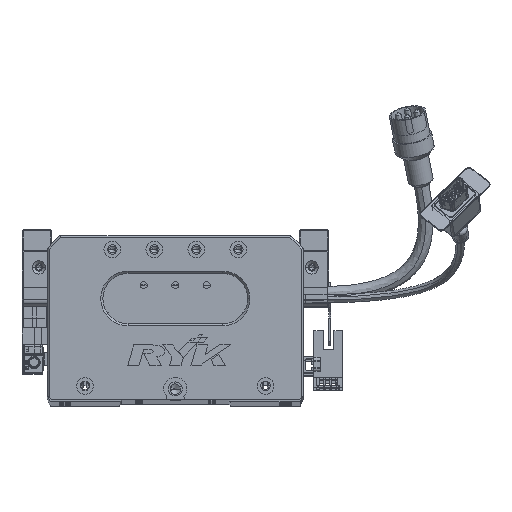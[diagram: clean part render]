
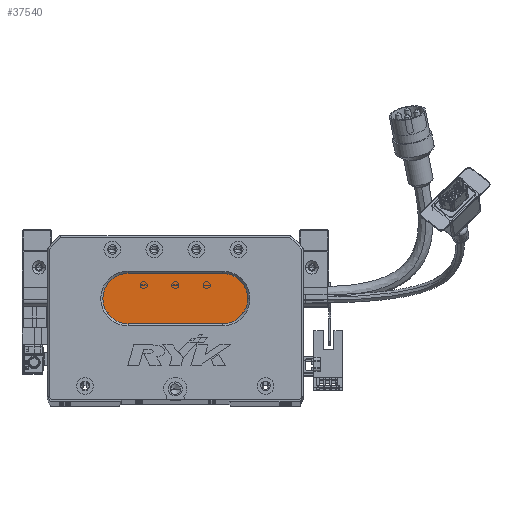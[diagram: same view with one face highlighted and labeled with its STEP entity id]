
A CAD part, top view. The second image highlights one B-rep face of the part: STEP entity #37540.
In plain terms, the highlighted planar face has unit normal (0, 0, 1) as drawn and (0, 0, -1) by its records, which use the part's own axes.
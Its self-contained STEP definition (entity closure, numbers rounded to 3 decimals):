
#6138 = DIRECTION ( 'NONE',  ( -1., 0., 0. ) ) ;
#9395 = DIRECTION ( 'NONE',  ( 0., 0., -1. ) ) ;
#12047 = VERTEX_POINT ( 'NONE', #60655 ) ;
#12202 = DIRECTION ( 'NONE',  ( -1., 0., 0. ) ) ;
#13288 = VERTEX_POINT ( 'NONE', #62908 ) ;
#14955 = CARTESIAN_POINT ( 'NONE',  ( 83.5, 36., 13. ) ) ;
#19718 = VERTEX_POINT ( 'NONE', #26098 ) ;
#20747 = EDGE_LOOP ( 'NONE', ( #84992, #68686, #64441, #40980, #57593 ) ) ;
#22133 = DIRECTION ( 'NONE',  ( -1., 0., 0. ) ) ;
#25501 = VERTEX_POINT ( 'NONE', #80517 ) ;
#26098 = CARTESIAN_POINT ( 'NONE',  ( 26.5, 48., 13. ) ) ;
#26427 = CARTESIAN_POINT ( 'NONE',  ( 83.5, 48., 13. ) ) ;
#27338 = VECTOR ( 'NONE', #22133, 1000. ) ;
#27813 = CARTESIAN_POINT ( 'NONE',  ( 83.5, 48., 13. ) ) ;
#29828 = CARTESIAN_POINT ( 'NONE',  ( 38.5, 60., 13. ) ) ;
#32329 = VERTEX_POINT ( 'NONE', #29828 ) ;
#33503 = PLANE ( 'NONE',  #36235 ) ;
#34121 = EDGE_CURVE ( 'NONE', #12047, #13288, #63776, .T. ) ;
#34276 = DIRECTION ( 'NONE',  ( 0., 0., -1. ) ) ;
#36235 = AXIS2_PLACEMENT_3D ( 'NONE', #26427, #54780, #47346 ) ;
#37540 = ADVANCED_FACE ( 'NONE', ( #51525 ), #33503, .T. ) ;
#40980 = ORIENTED_EDGE ( 'NONE', *, *, #73588, .T. ) ;
#42593 = EDGE_CURVE ( 'NONE', #13288, #19718, #51726, .T. ) ;
#43095 = VECTOR ( 'NONE', #55965, 1000. ) ;
#43665 = AXIS2_PLACEMENT_3D ( 'NONE', #44643, #9395, #73042 ) ;
#44643 = CARTESIAN_POINT ( 'NONE',  ( 38.5, 48., 13. ) ) ;
#47346 = DIRECTION ( 'NONE',  ( -1., 0., 0. ) ) ;
#48806 = EDGE_CURVE ( 'NONE', #25501, #12047, #70776, .T. ) ;
#51525 = FACE_OUTER_BOUND ( 'NONE', #20747, .T. ) ;
#51726 = CIRCLE ( 'NONE', #43665, 12. ) ;
#54780 = DIRECTION ( 'NONE',  ( 0., 0., -1. ) ) ;
#55965 = DIRECTION ( 'NONE',  ( 1., 0., 0. ) ) ;
#57593 = ORIENTED_EDGE ( 'NONE', *, *, #62492, .T. ) ;
#60655 = CARTESIAN_POINT ( 'NONE',  ( 83.5, 36., 13. ) ) ;
#61866 = LINE ( 'NONE', #83677, #43095 ) ;
#61910 = DIRECTION ( 'NONE',  ( 0., 0., -1. ) ) ;
#62492 = EDGE_CURVE ( 'NONE', #32329, #25501, #61866, .T. ) ;
#62908 = CARTESIAN_POINT ( 'NONE',  ( 38.5, 36., 13. ) ) ;
#63776 = LINE ( 'NONE', #14955, #27338 ) ;
#64441 = ORIENTED_EDGE ( 'NONE', *, *, #42593, .T. ) ;
#65498 = CIRCLE ( 'NONE', #89247, 12. ) ;
#68686 = ORIENTED_EDGE ( 'NONE', *, *, #34121, .T. ) ;
#70776 = CIRCLE ( 'NONE', #75933, 12. ) ;
#73042 = DIRECTION ( 'NONE',  ( -1., 0., 0. ) ) ;
#73588 = EDGE_CURVE ( 'NONE', #19718, #32329, #65498, .T. ) ;
#75933 = AXIS2_PLACEMENT_3D ( 'NONE', #27813, #34276, #6138 ) ;
#80517 = CARTESIAN_POINT ( 'NONE',  ( 83.5, 60., 13. ) ) ;
#82849 = CARTESIAN_POINT ( 'NONE',  ( 38.5, 48., 13. ) ) ;
#83677 = CARTESIAN_POINT ( 'NONE',  ( 83.5, 60., 13. ) ) ;
#84992 = ORIENTED_EDGE ( 'NONE', *, *, #48806, .T. ) ;
#89247 = AXIS2_PLACEMENT_3D ( 'NONE', #82849, #61910, #12202 ) ;
